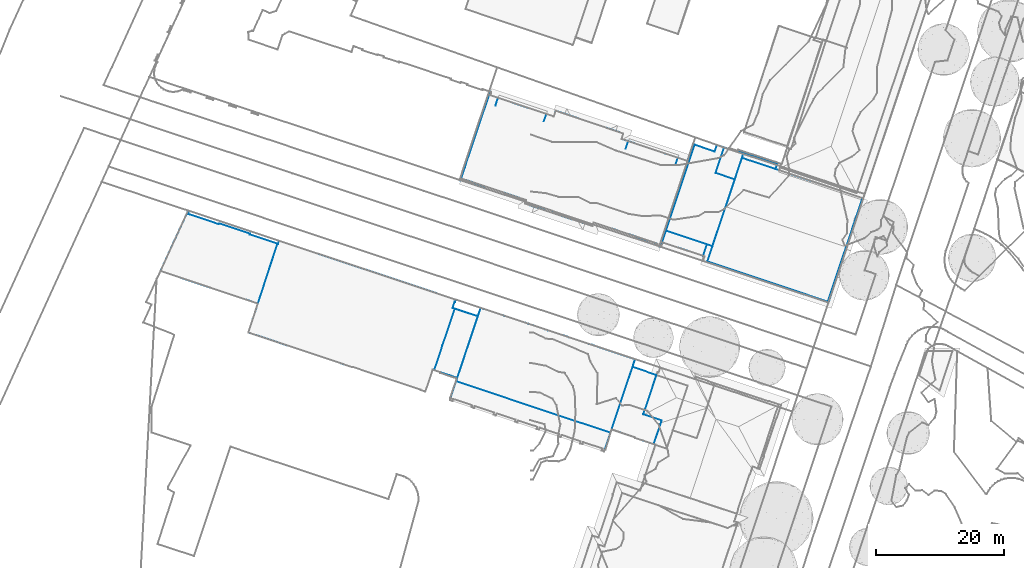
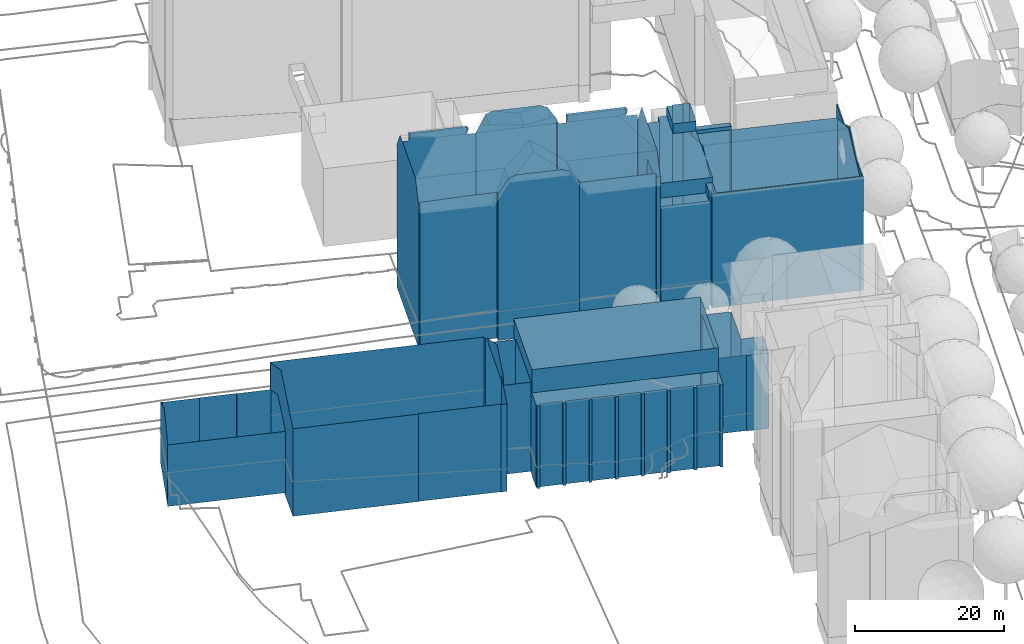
# Not in any storey, part 23 of 477: 3 walls.
"""IFC4 building model written with IfcOpenShell, lengths in metres."""

from ifc_helpers import new_model, si_unit, frame, origin_with_axes, place, context, subcontext, project, spatial, polygons, element, save


model = new_model("IFC4")

# Units and contexts
model_context = context("Model", 3, precision=1e-05, world=origin_with_axes())
body_context = subcontext(model_context, "Body", "Model", "MODEL_VIEW")
ifc_project = project(units=[si_unit("AREAUNIT", "SQUARE_METRE"), si_unit("LENGTHUNIT", "METRE")], contexts=[model_context])

# Sites, building
site_1_placement = place(None, origin_with_axes())
site_1 = spatial("IfcSite", under=ifc_project, at=site_1_placement, Name="Topoexport Site")
site_2_placement = place(site_1_placement, origin_with_axes())
site_2 = spatial("IfcSite", under=site_1, at=site_2_placement, Name="TPX_BUILDINGS")
building_1_placement = place(site_2_placement, frame((-11.7152679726, 130.4334160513, 524.4966), z_axis=(0.0, 0.0, 1.0), x_axis=(1.0, 0.0, 0.0)))
building_1 = spatial("IfcBuilding", under=site_2, at=building_1_placement, Name="Building 145", CompositionType="ELEMENT")

# Wall
wall_1_placement = place(None, frame((-11.7152679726, 130.4334160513, 524.4966), z_axis=(0.0, 0.0, 1.0), x_axis=(1.0, 0.0, 0.0)))
element("IfcWall", 1, at=wall_1_placement, inside=building_1, Name="Wall 0", context=body_context, shape_type="Tessellation", body=[
    polygons([(26.3079999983, 6.1357000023, 24.0247), (26.3079999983, 6.1357000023, 25.4776), (25.8889999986, 4.8838, 25.8985), (34.0810000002, 3.5381000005, 24.0187), (33.6609999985, 2.2831999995, 25.8985), (34.0810000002, 3.5381000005, 25.4756), (25.5289999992, 7.3447000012, 18.2303), (25.243999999, 6.4902000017, 24.3067), (25.5289999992, 7.3447000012, 24.3077), (25.5289999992, 7.3447000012, 0.0), (25.243999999, 6.4902000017, 6.0764), (25.5289999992, 7.3447000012, 6.0764), (25.243999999, 6.4902000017, 18.2303), (25.243999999, 6.4902000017, 0.0), (35.5949999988, 3.0322000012, 6.0044), (35.930999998, 4.0507999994, 22.4928), (35.5949999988, 3.0322000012, 15.0106), (35.5949999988, 3.0322000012, 0.0), (35.930999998, 4.0507999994, 0.0), (36.1789999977, 3.9678000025, 22.4928), (36.1789999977, 3.9678000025, 0.0), (0.1739999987, -0.057599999, 0.0), (0.0, 0.0, 23.3118), (0.1739999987, -0.057599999, 23.3138), (0.0, 0.0, 13.1118), (0.2760000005, 0.2344000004, 17.7873), (0.2760000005, 0.2344000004, 23.7168), (0.2760000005, 0.2344000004, 0.0), (0.2760000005, 0.2344000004, 5.9295), (10.2540000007, -3.0858999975, 23.8477), (10.307, -3.1024999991, 23.9387), (10.307, -3.1026999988, 0.0), (10.2540000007, -3.0858999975, 17.8633), (10.2540000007, -3.0858999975, 0.0), (10.2540000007, -3.0858999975, 5.8934), (30.9609999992, -9.9726999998, 11.9498), (30.8640000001, -10.2665999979, 23.4877), (30.9609999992, -9.9725999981, 0.0), (30.8640000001, -10.2665999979, 0.0), (20.7899999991, -6.932599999, 9.7551), (20.7039999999, -7.1933999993, 24.2467), (20.8929999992, -6.623999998, 24.2497), (20.8929999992, -6.623999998, 6.0624), (20.8929999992, -6.623999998, 12.1248), (20.8929999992, -6.623999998, 0.0), (20.7039999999, -7.1933999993, 18.1843), (20.7039999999, -7.1933999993, 12.1218), (20.7039999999, -7.1933999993, 0.0), (20.7039999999, -7.1932999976, 6.0594), (4.6490000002, 13.8965000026, 17.5304), (4.7289999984, 13.8691000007, 23.3738), (4.6490000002, 13.8965000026, 23.3738), (4.6490000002, 13.8965000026, 0.0), (4.8399999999, 13.8320000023, 0.0), (4.6490000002, 13.8965000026, 11.6869), (4.8399999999, 13.8320000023, 11.6869), (4.8399999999, 13.8320000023, 5.8435), (5.8859999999, 12.9365000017, 25.4226), (5.4809999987, 11.7266000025, 25.8826), (5.5029999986, 11.7910000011, 25.7856), (5.8859999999, 12.9365000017, 24.1217), (13.4479999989, 10.4141000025, 24.0577), (13.0409999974, 9.1963, 25.8825), (13.4479999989, 10.4141000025, 25.4196), (25.4089999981, 6.4354999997, 24.0257), (35.5949999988, 3.0322000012, 24.0167), (34.0810000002, 3.5381000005, 0.0), (26.3079999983, 6.1357000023, 0.0), (0.0, 0.0, 0.0), (0.6959999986, 2.0800999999, 0.0), (0.199000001, 0.5956999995, 24.1287), (0.6959999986, 2.0800999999, 26.3295), (6.1860000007, -1.7313999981, 23.8377), (6.1860000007, -1.7313999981, 0.0), (2.3319999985, -0.4492000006, 23.7387), (10.1180000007, -3.6719000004, 23.9407), (10.1180000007, -3.6719000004, 0.0), (31.3609999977, -10.4316000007, 23.4897), (31.3609999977, -10.4316000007, 0.0), (35.3229999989, 1.4081999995, 26.3295), (32.0379999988, -8.4091999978, 26.3295), (32.0379999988, -8.4091999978, 0.0), (35.3229999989, 1.4081999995, 0.0), (20.8929999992, -6.623999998, 18.1873), (21.1119999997, -6.6963, 23.8757), (25.3880000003, -8.1191000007, 23.8867), (30.9609999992, -9.9726999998, 23.9007), (4.7069999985, 13.4316000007, 0.0), (4.675999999, 13.3388999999, 0.0), (4.8399999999, 13.8320000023, 17.5304), (4.675999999, 13.3388999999, 24.1387), (4.7069999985, 13.4316000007, 24.0047), (4.8399999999, 13.8320000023, 23.3748), (4.5089999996, 13.4766000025, 24.0347), (3.756000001, 11.2226999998, 26.3825), (3.9809999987, 11.8965000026, 26.3295), (4.5089999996, 13.4766000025, 0.0), (3.756000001, 11.2226999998, 0.0), (3.9809999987, 11.8965000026, 0.0), (14.9479999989, 10.9062000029, 0.0), (14.9479999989, 10.9062000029, 23.1468), (14.8519999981, 10.6201000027, 23.1458), (14.6499999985, 10.0137000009, 0.0), (14.6499999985, 10.0137000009, 24.0557), (14.8519999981, 10.6201000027, 0.0), (10.3200000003, 11.4570000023, 0.0), (19.4820000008, -6.7870999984, 0.0), (12.4450000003, -4.4452999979, 0.0), (18.4509999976, -6.4442999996, 0.0), (11.5, -4.1317999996, 0.0), (19.4820000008, -6.7870999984, 26.3285), (18.4509999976, -6.4442999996, 26.7634), (12.4450000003, -4.4452999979, 26.7594), (11.5, -4.1317999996, 26.3285), (16.3709999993, 10.4277000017, 0.0), (17.2430000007, 10.1338, 0.0), (23.3889999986, 8.0645000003, 0.0), (24.3420000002, 7.7432000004, 0.0), (17.2430000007, 10.1338, 26.7265), (23.3889999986, 8.0645000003, 26.7314), (24.3420000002, 7.7432000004, 26.3285), (16.3709999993, 10.4277000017, 26.3285), (0.8719999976, 2.6074000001, 0.0), (0.8719999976, 2.6074000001, 26.3825), (2.3990000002, 7.1709000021, 0.0), (2.3990000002, 7.1709000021, 26.3285)], [[[3, 2, 1]], [[6, 5, 4]], [[9, 8, 7]], [[12, 11, 10]], [[13, 7, 8]], [[11, 14, 10]], [[17, 16, 15]], [[15, 16, 18]], [[16, 19, 18]], [[19, 16, 20]], [[21, 19, 20]], [[24, 23, 22]], [[25, 22, 23]], [[27, 24, 26]], [[29, 22, 28]], [[32, 31, 30]], [[33, 32, 30]], [[35, 34, 32]], [[38, 37, 36]], [[37, 38, 39]], [[42, 41, 40]], [[44, 40, 43]], [[43, 40, 45]], [[46, 40, 41]], [[47, 40, 46]], [[49, 48, 40]], [[40, 48, 45]], [[52, 51, 50]], [[55, 54, 53]], [[57, 51, 56]], [[60, 59, 58]], [[58, 61, 60]], [[64, 63, 62]], [[2, 6, 4]], [[4, 17, 1]], [[2, 4, 1]], [[8, 65, 13]], [[1, 17, 13]], [[11, 13, 17]], [[1, 13, 65]], [[4, 66, 17]], [[17, 15, 11]], [[18, 67, 15]], [[68, 14, 11]], [[67, 68, 11]], [[11, 15, 67]], [[70, 69, 25]], [[23, 71, 25]], [[72, 25, 71]], [[25, 72, 70]], [[30, 73, 33]], [[74, 35, 29]], [[74, 34, 35]], [[29, 35, 33]], [[26, 33, 73]], [[75, 27, 26]], [[26, 29, 33]], [[74, 29, 28]], [[73, 75, 26]], [[77, 76, 31]], [[31, 32, 77]], [[39, 79, 78]], [[78, 37, 39]], [[81, 78, 80]], [[20, 80, 78]], [[78, 82, 20]], [[82, 83, 20]], [[21, 20, 83]], [[78, 79, 82]], [[44, 43, 38]], [[43, 45, 38]], [[38, 36, 84]], [[86, 85, 36]], [[38, 84, 44]], [[85, 42, 84]], [[85, 84, 36]], [[87, 86, 36]], [[54, 57, 88]], [[89, 88, 57]], [[57, 56, 89]], [[92, 91, 90]], [[90, 93, 92]], [[56, 90, 91]], [[91, 89, 56]], [[94, 52, 50]], [[96, 94, 95]], [[95, 94, 50]], [[95, 50, 55]], [[55, 53, 97]], [[55, 99, 98]], [[99, 55, 97]], [[55, 98, 95]], [[102, 101, 100]], [[104, 102, 103]], [[105, 103, 102]], [[100, 105, 102]], [[61, 89, 91]], [[106, 89, 61]], [[61, 58, 64]], [[62, 104, 103]], [[62, 106, 61]], [[103, 106, 62]], [[62, 61, 64]], [[107, 48, 49]], [[47, 46, 108]], [[109, 49, 47]], [[109, 107, 49]], [[108, 109, 47]], [[46, 110, 108]], [[77, 41, 111]], [[77, 111, 112]], [[77, 112, 113]], [[46, 77, 110]], [[76, 77, 113]], [[114, 76, 113]], [[77, 46, 41]], [[100, 101, 115]], [[115, 101, 116]], [[117, 116, 12]], [[12, 118, 117]], [[12, 10, 118]], [[101, 12, 116]], [[101, 119, 7]], [[119, 120, 7]], [[121, 9, 120]], [[9, 7, 120]], [[7, 12, 101]], [[122, 119, 101]], [[72, 124, 123]], [[123, 70, 72]], [[124, 125, 123]], [[126, 95, 98]], [[98, 125, 126]], [[126, 125, 124]], [[12, 7, 11]], [[11, 7, 13]], [[66, 16, 17]], [[69, 22, 25]], [[24, 29, 26]], [[24, 22, 29]], [[33, 35, 32]], [[87, 36, 37]], [[42, 40, 84]], [[44, 84, 40]], [[47, 49, 40]], [[55, 50, 51]], [[51, 54, 55]], [[93, 90, 51]], [[90, 56, 51]], [[54, 51, 57]]]),
])

# Building
building_2_placement = place(site_2_placement, frame((19.7027320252, 120.1717160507, 524.8305), z_axis=(0.0, 0.0, 1.0), x_axis=(1.0, 0.0, 0.0)))
building_2 = spatial("IfcBuilding", under=site_2, at=building_2_placement, Name="Building 148", CompositionType="ELEMENT")

# Wall
wall_2_placement = place(None, frame((19.7027320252, 120.1717160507, 524.8305), z_axis=(0.0, 0.0, 1.0), x_axis=(1.0, 0.0, 0.0)))
element("IfcWall", 2, at=wall_2_placement, inside=building_2, Name="Wall 0", context=body_context, shape_type="Tessellation", body=[
    polygons([(8.7740000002, 15.8027000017, 20.1371), (8.7740000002, 15.8027000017, 0.0001), (9.9170000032, 15.4033000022, 20.1371), (10.6570000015, 15.1513000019, 0.0001), (9.9160000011, 15.3994000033, 0.0001), (8.4350000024, 14.7881000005, 0.0001), (8.4350000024, 14.7881000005, 20.1371), (5.3000000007, 15.8369000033, 0.0001), (5.3000000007, 15.8369000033, 20.1371), (26.3020000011, -8.9433999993, 0.6959), (6.6390000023, -2.3993999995, 19.2962), (26.3020000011, -8.9433999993, 19.2962), (6.6390000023, -2.3993999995, 0.696), (6.8770000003, -1.6767999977, 19.2962), (0.3020000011, 0.5117000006, 0.0), (0.1190000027, -0.0400999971, 17.6974), (0.3020000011, 0.5117000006, 17.6974), (0.1190000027, -0.0400999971, 0.0), (0.0, 0.0, 17.6974), (6.6290000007, -1.5937999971, 17.6973), (7.2390000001, 0.2246000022, 19.2962), (6.6290000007, -1.5946999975, 19.2962), (8.0940000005, -0.0605999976, 0.0), (7.2390000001, 0.2246000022, 0.0), (8.0940000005, -0.0605999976, 0.696), (8.0940000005, -0.0605999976, 19.2962), (8.0940000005, -0.0605999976, 20.1371), (0.7960000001, 2.3818000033, 20.1371), (7.2390000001, 0.2246000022, 17.6973), (0.7960000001, 2.3818000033, 17.6974), (6.6290000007, -1.5937999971, 0.0), (7.2390000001, 0.2246000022, 0.696), (12.0890000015, 14.8545000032, 0.0001), (12.1020000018, 14.8925999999, 21.732), (12.0890000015, 14.8545000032, 21.732), (10.7140000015, 15.3154000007, 0.0001), (10.7140000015, 15.3154000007, 21.732), (18.2590000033, 12.8330000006, 0.696), (17.9890000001, 12.0312000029, 17.0864), (18.2590000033, 12.8330000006, 17.6964), (17.9890000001, 12.0303000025, 17.6963), (10.6520000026, 15.1377000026, 21.732), (10.6520000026, 15.1377000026, 20.1371), (10.6570000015, 15.1513000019, 20.1371), (9.9160000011, 15.3994000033, 21.732), (8.5840000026, 11.4179000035, 20.1371), (8.5840000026, 11.4179000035, 21.732), (11.5980000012, 10.4101000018, 20.1371), (11.5980000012, 10.4101000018, 21.732), (7.2980000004, -2.4423999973, 17.5354), (26.1960000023, -8.7655999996, 19.2962), (7.2980000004, -2.4423999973, 19.2962), (31.6280000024, 7.4668000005, 17.0864), (31.6280000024, 7.4668000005, 19.2962), (30.1030000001, 2.9043000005, 19.3042), (12.7290000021, 13.7920000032, 17.6964), (0.0, 0.0, 0.0), (0.7960000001, 2.3818000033, 0.0), (6.8770000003, -1.6767999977, 0.696), (6.6290000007, -1.5946999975, 0.696), (31.6280000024, 7.4668000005, 0.696), (17.9890000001, 12.0303000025, 0.696), (31.7660000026, 7.4209000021, 19.2962), (31.7660000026, 7.4209000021, 0.696), (12.9979999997, 14.5928000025, 0.696), (12.9979999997, 14.5928000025, 17.6964), (12.1020000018, 14.8925999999, 0.0001), (12.9979999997, 14.5928000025, 0.0001), (12.9979999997, 14.5928000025, 21.732), (12.7290000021, 13.7920000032, 0.0001), (12.7290000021, 13.7920000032, 0.696), (11.5980000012, 10.4101000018, 0.696), (11.5980000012, 10.4101000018, 0.0), (12.7290000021, 13.7920000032, 17.0864), (10.6410000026, 7.5488000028, 20.1371), (9.575000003, 4.3652000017, 20.1371), (8.0940000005, -0.0605999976, 18.4453), (26.1960000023, -8.7655999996, 17.5353), (27.5190000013, -4.8125, 19.2962), (29.0730000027, -0.1728999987, 20.82), (28.9680000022, -0.4882999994, 21.396), (10.1730000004, 6.1523000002, 20.8201), (29.307, 0.0556000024, 0.696), (30.2420000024, 2.8574000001, 19.3032), (30.2420000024, 2.8574000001, 0.696), (30.5040000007, 3.6406000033, 0.696), (30.5040000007, 3.6406000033, 19.3032), (27.6650000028, -4.8622999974, 19.2962), (29.307, 0.0556000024, 21.03), (27.6650000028, -4.8622999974, 0.6959), (29.1090000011, -0.5351999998, 0.696), (29.1090000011, -0.5351999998, 21.396)], [[[3, 2, 1]], [[5, 3, 4]], [[7, 1, 6]], [[9, 7, 8]], [[12, 11, 10]], [[11, 14, 13]], [[17, 16, 15]], [[16, 19, 18]], [[22, 21, 20]], [[25, 24, 23]], [[27, 21, 26]], [[21, 27, 28]], [[21, 30, 29]], [[30, 21, 28]], [[32, 31, 24]], [[35, 34, 33]], [[37, 35, 36]], [[40, 39, 38]], [[41, 39, 40]], [[44, 43, 42]], [[44, 37, 36]], [[37, 44, 42]], [[44, 36, 4]], [[45, 43, 3]], [[47, 45, 46]], [[49, 47, 48]], [[52, 51, 50]], [[55, 54, 53]], [[41, 56, 39]], [[57, 19, 30]], [[30, 9, 8]], [[9, 30, 28]], [[8, 58, 30]], [[30, 58, 57]], [[20, 59, 14]], [[20, 60, 59]], [[14, 22, 20]], [[17, 15, 60]], [[31, 60, 15]], [[60, 20, 17]], [[62, 39, 61]], [[61, 39, 53]], [[54, 63, 53]], [[53, 64, 61]], [[64, 53, 63]], [[67, 66, 65]], [[66, 67, 34]], [[68, 67, 65]], [[69, 66, 34]], [[40, 38, 66]], [[66, 38, 65]], [[71, 70, 65]], [[72, 70, 71]], [[72, 25, 73]], [[73, 25, 23]], [[66, 69, 56]], [[69, 48, 56]], [[49, 48, 69]], [[75, 74, 48]], [[48, 74, 56]], [[77, 76, 26]], [[26, 76, 27]], [[52, 50, 77]], [[52, 77, 26]], [[51, 79, 78]], [[79, 80, 78]], [[81, 55, 80]], [[81, 80, 79]], [[76, 82, 75]], [[85, 84, 83]], [[87, 84, 86]], [[64, 63, 86]], [[86, 63, 87]], [[84, 85, 86]], [[84, 89, 88]], [[88, 12, 90]], [[91, 84, 88]], [[83, 84, 91]], [[10, 90, 12]], [[91, 88, 90]], [[88, 89, 92]], [[5, 2, 3]], [[3, 44, 4]], [[1, 2, 6]], [[7, 6, 8]], [[11, 13, 10]], [[14, 59, 13]], [[16, 18, 15]], [[19, 57, 18]], [[21, 29, 20]], [[32, 24, 25]], [[60, 31, 32]], [[34, 67, 33]], [[35, 33, 36]], [[39, 62, 38]], [[42, 43, 45]], [[45, 3, 46]], [[47, 46, 48]], [[51, 78, 50]], [[56, 74, 39]], [[70, 68, 65]], [[73, 70, 72]]]),
])

# Building
building_3_placement = place(site_2_placement, frame((-58.7722679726, 116.2176160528, 523.7797), z_axis=(0.0, 0.0, 1.0), x_axis=(1.0, 0.0, 0.0)))
building_3 = spatial("IfcBuilding", under=site_2, at=building_3_placement, Name="Building 162", CompositionType="ELEMENT")

# Wall
wall_3_placement = place(None, frame((-58.7722679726, 116.2176160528, 523.7797), z_axis=(0.0, 0.0, 1.0), x_axis=(1.0, 0.0, 0.0)))
element("IfcWall", 3, at=wall_3_placement, inside=building_3, Name="Wall 0", context=body_context, shape_type="Tessellation", body=[
    polygons([(74.0280000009, -15.0419999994, 14.5215), (74.4210000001, -13.8662, 16.6373), (74.0280000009, -15.0419999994, 2.1637), (70.745000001, -24.8584000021, 16.6373), (70.745000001, -24.8584000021, -0.519), (74.4210000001, -13.8662, -0.519), (70.745000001, -24.8584000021, 14.5215), (70.5830000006, -25.378899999, 16.6373), (70.745000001, -24.8584000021, 2.1637), (70.5830000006, -25.378899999, 12.8257), (70.5830000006, -25.378899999, -0.519), (49.7540000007, -6.9981000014, -0.373), (49.8029999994, -7.0137000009, 14.2156), (49.7540000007, -6.9981000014, 14.2156), (49.7190000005, -7.1035000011, -0.373), (49.7190000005, -7.1035000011, 14.2156), (74.4639999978, -26.0967000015, 2.1637), (74.4639999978, -26.0967000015, 14.5215), (74.4389999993, -26.2001999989, 2.1637), (74.4389999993, -26.2001999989, 14.5215), (77.362999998, -27.1797000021, 2.1637), (77.362999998, -27.1797000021, 14.5215), (78.6090000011, -23.432599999, 2.1637), (78.6090000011, -23.432599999, 14.5215), (75.7329999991, -22.4776000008, 2.1637), (75.7329999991, -22.4776000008, 14.5215), (77.7799999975, -16.3203000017, 2.1637), (77.7799999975, -16.3203000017, 14.5215), (45.555999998, -19.9618999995, -0.71), (45.4869999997, -19.938500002, 12.8257), (45.555999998, -19.9618999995, 12.8257), (45.4549999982, -20.2646999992, -0.71), (45.4549999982, -20.2646999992, 12.8257), (45.8350000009, -20.3916000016, -0.71), (45.8350000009, -20.3916000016, 12.8257), (45.9389999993, -20.0791000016, -0.71), (45.9389999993, -20.0791000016, 12.8257), (48.9179999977, -21.0703000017, -0.71), (48.9179999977, -21.0703000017, 12.8257), (48.8139999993, -21.3828000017, -0.71), (48.8139999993, -21.3828000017, 12.8257), (49.1939999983, -21.5088, -0.71), (49.1939999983, -21.5088, 12.8257), (49.2980000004, -21.1963, -0.71), (49.2980000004, -21.1963, 12.8257), (52.3339999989, -22.2070000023, -0.71), (52.3339999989, -22.2070000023, 12.8257), (52.2300000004, -22.5195000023, -0.71), (52.2300000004, -22.5196000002, 12.8257), (52.6090000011, -22.6455000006, -0.71), (52.6090000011, -22.6455000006, 12.8257), (52.7139999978, -22.3339999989, -0.71), (52.7139999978, -22.3339999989, 12.8257), (55.7229999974, -23.3330000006, -0.71), (55.7229999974, -23.3330000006, 12.8257), (55.6180000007, -23.6464999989, -0.71), (55.6180000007, -23.6464999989, 12.8257), (55.9969999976, -23.7725000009, -0.71), (55.9969999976, -23.7725000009, 12.8257), (56.1019999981, -23.4589999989, -0.71), (56.1019999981, -23.4589999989, 12.8257), (59.1180000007, -24.4649000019, -0.71), (59.1180000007, -24.4649000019, 12.8257), (59.0139999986, -24.7783000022, -0.71), (59.0139999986, -24.7783000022, 12.8257), (59.3839999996, -24.9004000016, -0.71), (59.3839999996, -24.9004000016, 12.8257), (59.487999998, -24.5879000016, -0.71), (59.487999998, -24.5879000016, 12.8257), (62.5150000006, -25.5956999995, -0.71), (62.5150000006, -25.5956999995, 12.8257), (62.4109999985, -25.9092000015, -0.71), (62.4109999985, -25.9092000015, 12.8257), (62.7899999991, -26.0351999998, -0.71), (62.7899999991, -26.0351999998, 12.8257), (62.8939999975, -25.7217000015, -0.71), (62.8939999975, -25.7217000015, 12.8257), (65.9210000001, -26.7294999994, -0.71), (65.9210000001, -26.7294999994, 12.8257), (65.8169999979, -27.0430000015, -0.71), (65.8169999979, -27.0430000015, 12.8257), (66.186999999, -27.1660000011, -0.71), (66.186999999, -27.1660000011, 12.8257), (66.2909999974, -26.8526000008, -0.71), (66.2909999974, -26.8526000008, 12.8257), (69.3189999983, -27.8612999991, -0.71), (69.3189999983, -27.8612999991, 12.8257), (69.2149999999, -28.1737999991, -0.71), (69.2149999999, -28.1737999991, 12.8257), (69.5979999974, -28.3007999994, -0.71), (69.5979999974, -28.3007999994, 12.8257), (46.370000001, -17.2959000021, 16.6374), (46.370000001, -17.2959000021, -0.71), (46.370000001, -17.2959000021, -0.519), (46.1349999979, -4.8251999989, -0.594), (46.2009999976, -4.8467000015, 14.4156), (46.2009999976, -4.8467000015, -0.594), (46.318, -4.496100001, -0.594), (46.318, -4.496100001, 14.2276), (18.5789999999, 4.7294999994, -0.5939), (32.4979999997, 0.1006000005, 14.2356), (18.5789999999, 4.7294999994, 14.2446), (34.182, -0.4600000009, -0.594), (39.3829999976, -2.1895000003, 14.2316), (18.4210000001, 4.254900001, 3.1787), (18.4210000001, 4.254900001, 6.9523), (18.4210000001, 4.254900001, -0.5939), (30.1099999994, -15.0419999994, -0.594), (30.0969999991, -15.0918000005, 13.7257), (30.1099999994, -15.0419999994, 13.7547), (40.8000000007, -18.6152999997, 13.7516), (40.8000000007, -18.6152999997, -0.594), (40.7829999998, -18.6816999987, -0.594), (41.5520000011, -18.9356000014, -0.594), (41.5520000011, -18.9356000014, 13.7146), (42.7009999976, -15.4873000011, 5.5394), (42.7009999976, -15.4873000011, -0.594), (13.7929999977, -9.6533000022, 13.7237), (30.0969999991, -15.0918000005, -0.594), (23.2190000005, -12.7969000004, -0.594), (13.7929999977, -9.6533000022, 8.3542), (17.868999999, -11.0126999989, 2.9847), (13.7929999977, -9.6533000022, -0.5939), (6.1079999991, -2.0478999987, 10.06), (15.2699999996, -5.120099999, 10.054), (15.2699999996, -5.120099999, 0.0), (8.9079999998, -2.9873000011, 0.0), (0.0, 0.0, 0.0), (0.0, 0.0, 10.0651), (13.9890000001, 5.7285000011, 0.0), (13.9890000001, 5.7285000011, 2.5258), (14.0299999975, 5.8515000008, 0.0), (9.1999999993, 7.4589999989, 0.0), (14.0299999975, 5.8515000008, 10.0371), (9.1999999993, 7.4589999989, 10.0391), (9.1589999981, 7.3348999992, 0.0), (4.4509999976, 9.2881000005, 0.0), (4.3350000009, 8.9393999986, 0.0), (4.4509999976, 9.2881000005, 9.9211), (4.2839999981, 9.3436999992, 0.0), (4.2839999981, 9.3436999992, 9.9211), (45.8099999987, -5.8037, 14.9385), (46.1349999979, -4.8251999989, 14.4156), (45.8099999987, -5.8037, -0.594), (45.8099999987, -5.8037, 3.2897), (46.5449999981, -16.7705000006, -0.373), (46.370000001, -17.2959000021, 12.8257), (45.4869999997, -19.938500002, -0.71), (49.8029999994, -7.0137000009, -0.373), (46.5449999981, -16.7705000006, 14.2156), (50.2129999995, -5.7881000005, 16.6374), (50.2129999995, -5.7881000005, -0.519), (46.1549999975, -5.9189999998, 14.2156), (45.8099999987, -5.8037, 9.1141), (46.1549999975, -5.9189999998, -0.373), (46.1549999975, -5.9189999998, 14.9385), (46.1549999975, -5.9189999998, -0.594), (69.699000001, -27.9970999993, 12.8257), (69.699000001, -27.9970999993, -0.71), (70.5830000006, -25.378899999, -0.71), (2.0979999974, 4.5762000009, 12.5788), (13.9890000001, 5.7285000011, 10.103), (18.3409999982, 4.2822000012, 0.0), (18.3409999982, 4.2822000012, -0.5939), (18.3409999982, 4.2822000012, 10.1), (18.4210000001, 4.254900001, 14.4986), (18.3409999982, 4.2822000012, 14.4976), (44.2179999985, -11.7217000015, -0.373), (44.2179999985, -11.7217000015, -0.594), (42.9349999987, -15.5645000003, -0.594), (42.9349999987, -15.5645000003, -0.373), (44.2179999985, -11.7217000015, 14.2156), (44.2179999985, -11.7217000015, 18.0432), (42.9349999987, -15.5645000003, 14.2156), (42.9349999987, -15.5645000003, 15.7615), (43.873999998, -15.8779000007, -0.373), (43.873999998, -15.8779000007, 14.2156), (42.7009999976, -15.4873000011, 15.7615), (50.6559999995, -5.9345999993, -0.519), (50.6559999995, -5.9345999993, 16.6374), (53.6339999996, -6.9268000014, 16.6374), (54.0139999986, -7.0537, -0.519), (54.0139999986, -7.0537, 16.6374), (57.7249999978, -8.2910000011, -0.519), (57.7029999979, -8.2831999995, 16.6374), (53.6339999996, -6.9268000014, -0.519), (60.4169999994, -9.1865000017, 16.6374), (60.7969999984, -9.313500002, -0.519), (60.7969999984, -9.313500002, 16.6374), (63.824000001, -10.3233000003, -0.519), (63.824000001, -10.3233000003, 16.6374), (64.2029999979, -10.4492000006, 16.6374), (67.2199999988, -11.4541000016, -0.519), (67.2199999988, -11.4541000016, 16.6373), (67.5989999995, -11.5800999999, -0.519), (67.5989999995, -11.5800999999, 16.6373), (64.2029999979, -10.4492000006, -0.519), (15.1970000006, -5.3427999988, -0.5939), (16.1719999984, -2.3603999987, -0.5939), (16.1719999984, -2.3603999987, 0.0), (15.193, -5.3555000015, 16.2684), (16.1719999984, -2.3603999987, 11.5119), (16.1719999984, -2.3603999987, 18.0433), (16.8310000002, -0.3418000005, 12.5788), (40.7829999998, -18.6816999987, 13.7136), (9.1589999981, 7.3348999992, 10.1061), (4.3350000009, 8.9393999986, 10.1091), (60.4169999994, -9.1865000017, -0.519)], [[[3, 2, 1]], [[1, 2, 4]], [[6, 3, 5]], [[4, 7, 1]], [[7, 4, 8]], [[7, 10, 9]], [[5, 9, 11]], [[10, 7, 8]], [[14, 13, 12]], [[16, 14, 15]], [[18, 7, 17]], [[20, 18, 19]], [[22, 20, 21]], [[24, 22, 23]], [[26, 24, 25]], [[28, 26, 27]], [[1, 28, 3]], [[31, 30, 29]], [[33, 31, 32]], [[35, 33, 34]], [[37, 35, 36]], [[39, 37, 38]], [[41, 39, 40]], [[43, 41, 42]], [[45, 43, 44]], [[47, 45, 46]], [[49, 47, 48]], [[51, 49, 50]], [[53, 51, 52]], [[55, 53, 54]], [[57, 55, 56]], [[59, 57, 58]], [[61, 59, 60]], [[63, 61, 62]], [[65, 63, 64]], [[67, 65, 66]], [[69, 67, 68]], [[71, 69, 70]], [[73, 71, 72]], [[75, 73, 74]], [[77, 75, 76]], [[79, 77, 78]], [[81, 79, 80]], [[83, 81, 82]], [[85, 83, 84]], [[87, 85, 86]], [[89, 87, 88]], [[91, 89, 90]], [[8, 92, 10]], [[94, 11, 93]], [[97, 96, 95]], [[99, 96, 98]], [[96, 97, 98]], [[102, 101, 100]], [[101, 103, 100]], [[104, 98, 101]], [[98, 103, 101]], [[106, 100, 105]], [[107, 105, 100]], [[110, 109, 108]], [[110, 112, 111]], [[112, 110, 108]], [[111, 112, 113]], [[115, 113, 114]], [[117, 116, 115]], [[115, 114, 117]], [[120, 119, 118]], [[123, 122, 121]], [[118, 122, 120]], [[122, 123, 120]], [[126, 125, 124]], [[124, 127, 126]], [[124, 128, 127]], [[128, 124, 129]], [[132, 131, 130]], [[135, 134, 133]], [[135, 133, 136]], [[139, 138, 137]], [[141, 139, 140]], [[139, 137, 140]], [[95, 143, 142]], [[145, 144, 95]], [[94, 147, 146]], [[30, 147, 94]], [[148, 94, 93]], [[94, 148, 30]], [[149, 94, 146]], [[147, 92, 150]], [[150, 92, 13]], [[152, 13, 151]], [[147, 150, 146]], [[154, 142, 153]], [[145, 154, 15]], [[144, 145, 155]], [[15, 154, 16]], [[156, 153, 142]], [[155, 145, 15]], [[155, 157, 144]], [[16, 154, 153]], [[11, 10, 158]], [[160, 11, 159]], [[91, 90, 158]], [[158, 159, 11]], [[141, 128, 129]], [[161, 141, 129]], [[128, 141, 140]], [[105, 131, 162]], [[130, 131, 163]], [[164, 163, 107]], [[163, 131, 105]], [[162, 165, 106]], [[163, 105, 107]], [[105, 162, 106]], [[165, 166, 106]], [[165, 167, 166]], [[169, 157, 168]], [[168, 157, 155]], [[168, 171, 170]], [[168, 170, 169]], [[153, 156, 172]], [[172, 156, 173]], [[175, 174, 172]], [[175, 172, 173]], [[176, 146, 150]], [[176, 150, 177]], [[116, 171, 176]], [[170, 171, 117]], [[176, 177, 116]], [[174, 175, 178]], [[171, 116, 117]], [[174, 178, 116]], [[177, 174, 116]], [[180, 179, 151]], [[183, 182, 181]], [[185, 184, 183]], [[181, 186, 180]], [[185, 187, 184]], [[189, 188, 187]], [[191, 190, 189]], [[194, 193, 192]], [[6, 195, 2]], [[196, 195, 194]], [[192, 197, 191]], [[123, 121, 125]], [[198, 123, 126]], [[200, 199, 198]], [[199, 200, 163]], [[200, 198, 126]], [[123, 125, 126]], [[201, 121, 118]], [[125, 201, 202]], [[201, 203, 202]], [[202, 203, 204]], [[163, 164, 199]], [[204, 167, 165]], [[167, 204, 203]], [[125, 121, 201]], [[6, 2, 3]], [[3, 9, 5]], [[10, 11, 9]], [[13, 149, 12]], [[14, 12, 15]], [[7, 9, 17]], [[18, 17, 19]], [[20, 19, 21]], [[22, 21, 23]], [[24, 23, 25]], [[26, 25, 27]], [[28, 27, 3]], [[30, 148, 29]], [[31, 29, 32]], [[33, 32, 34]], [[35, 34, 36]], [[37, 36, 38]], [[39, 38, 40]], [[41, 40, 42]], [[43, 42, 44]], [[45, 44, 46]], [[47, 46, 48]], [[49, 48, 50]], [[51, 50, 52]], [[53, 52, 54]], [[55, 54, 56]], [[57, 56, 58]], [[59, 58, 60]], [[61, 60, 62]], [[63, 62, 64]], [[65, 64, 66]], [[67, 66, 68]], [[69, 68, 70]], [[71, 70, 72]], [[73, 72, 74]], [[75, 74, 76]], [[77, 76, 78]], [[79, 78, 80]], [[81, 80, 82]], [[83, 82, 84]], [[85, 84, 86]], [[87, 86, 88]], [[89, 88, 90]], [[92, 147, 10]], [[11, 160, 93]], [[96, 143, 95]], [[99, 98, 104]], [[106, 166, 100]], [[102, 100, 166]], [[109, 119, 108]], [[111, 113, 205]], [[205, 113, 115]], [[116, 178, 115]], [[119, 109, 118]], [[122, 118, 121]], [[134, 162, 132]], [[162, 131, 132]], [[134, 132, 133]], [[135, 136, 206]], [[207, 136, 138]], [[136, 207, 206]], [[207, 138, 139]], [[95, 142, 154]], [[154, 145, 95]], [[152, 94, 149]], [[92, 151, 13]], [[149, 13, 152]], [[90, 159, 158]], [[179, 152, 151]], [[182, 186, 181]], [[184, 182, 183]], [[186, 179, 180]], [[187, 208, 184]], [[188, 208, 187]], [[190, 188, 189]], [[193, 197, 192]], [[195, 196, 2]], [[195, 193, 194]], [[197, 190, 191]]]),
])

save(model, "model.ifc")
